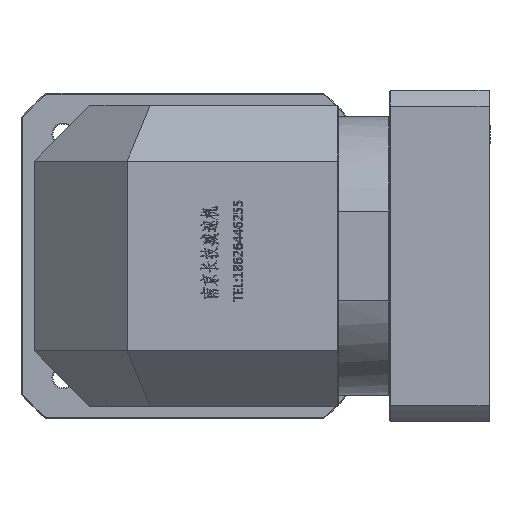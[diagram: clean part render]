
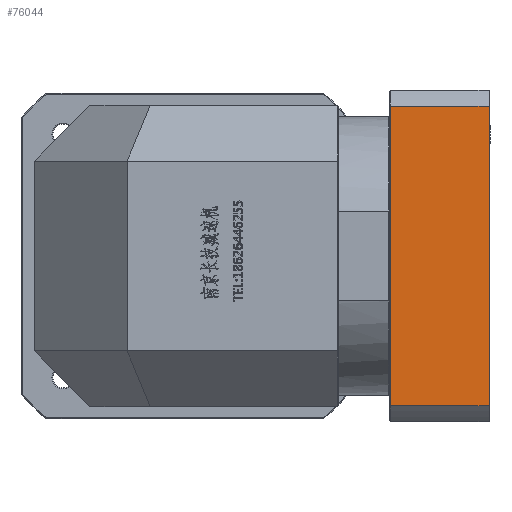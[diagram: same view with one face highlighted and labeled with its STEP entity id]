
A CAD part, left-side view. The second image highlights one B-rep face of the part: STEP entity #76044.
In plain terms, the highlighted planar face has unit normal (-1, 0, 0).
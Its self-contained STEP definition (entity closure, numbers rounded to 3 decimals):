
#4223 = CARTESIAN_POINT ( 'NONE',  ( -107.659, 148.922, 164.77 ) ) ;
#6166 = DIRECTION ( 'NONE',  ( 1., 0., 0. ) ) ;
#14596 = DIRECTION ( 'NONE',  ( 0., 1., 0. ) ) ;
#15748 = VERTEX_POINT ( 'NONE', #55165 ) ;
#20786 = ORIENTED_EDGE ( 'NONE', *, *, #30284, .F. ) ;
#21558 = EDGE_CURVE ( 'NONE', #153632, #79038, #80663, .T. ) ;
#22400 = EDGE_LOOP ( 'NONE', ( #20786, #82383, #121742, #56126 ) ) ;
#28456 = CARTESIAN_POINT ( 'NONE',  ( -107.659, -247.883, 156.262 ) ) ;
#28721 = DIRECTION ( 'NONE',  ( 0., 0., -1. ) ) ;
#30284 = EDGE_CURVE ( 'NONE', #153632, #88970, #147467, .T. ) ;
#39897 = PLANE ( 'NONE',  #144063 ) ;
#45024 = CARTESIAN_POINT ( 'NONE',  ( -107.659, -194.383, 325.755 ) ) ;
#55165 = CARTESIAN_POINT ( 'NONE',  ( -107.659, -247.383, 164.77 ) ) ;
#56126 = ORIENTED_EDGE ( 'NONE', *, *, #143844, .F. ) ;
#60884 = CARTESIAN_POINT ( 'NONE',  ( -107.659, -247.883, 325.755 ) ) ;
#65693 = VECTOR ( 'NONE', #85374, 1000. ) ;
#71054 = CARTESIAN_POINT ( 'NONE',  ( -107.659, -247.383, 325.755 ) ) ;
#74603 = CARTESIAN_POINT ( 'NONE',  ( -107.659, -194.383, 164.77 ) ) ;
#76044 = ADVANCED_FACE ( 'NONE', ( #124970 ), #39897, .F. ) ;
#79038 = VERTEX_POINT ( 'NONE', #74603 ) ;
#79269 = VECTOR ( 'NONE', #95078, 1000. ) ;
#79652 = EDGE_CURVE ( 'NONE', #15748, #79038, #104962, .T. ) ;
#80663 = LINE ( 'NONE', #122782, #121650 ) ;
#82383 = ORIENTED_EDGE ( 'NONE', *, *, #21558, .T. ) ;
#82580 = CARTESIAN_POINT ( 'NONE',  ( -107.659, -247.383, 156.262 ) ) ;
#85374 = DIRECTION ( 'NONE',  ( 0., -1., 0. ) ) ;
#87732 = DIRECTION ( 'NONE',  ( 0., 1., 0. ) ) ;
#88970 = VERTEX_POINT ( 'NONE', #71054 ) ;
#93787 = VECTOR ( 'NONE', #14596, 1000. ) ;
#95078 = DIRECTION ( 'NONE',  ( 0., 0., -1. ) ) ;
#104962 = LINE ( 'NONE', #4223, #93787 ) ;
#121650 = VECTOR ( 'NONE', #28721, 1000. ) ;
#121742 = ORIENTED_EDGE ( 'NONE', *, *, #79652, .F. ) ;
#122782 = CARTESIAN_POINT ( 'NONE',  ( -107.659, -194.383, 156.262 ) ) ;
#124970 = FACE_OUTER_BOUND ( 'NONE', #22400, .T. ) ;
#143844 = EDGE_CURVE ( 'NONE', #88970, #15748, #144301, .T. ) ;
#144063 = AXIS2_PLACEMENT_3D ( 'NONE', #28456, #6166, #87732 ) ;
#144301 = LINE ( 'NONE', #82580, #79269 ) ;
#147467 = LINE ( 'NONE', #60884, #65693 ) ;
#153632 = VERTEX_POINT ( 'NONE', #45024 ) ;
